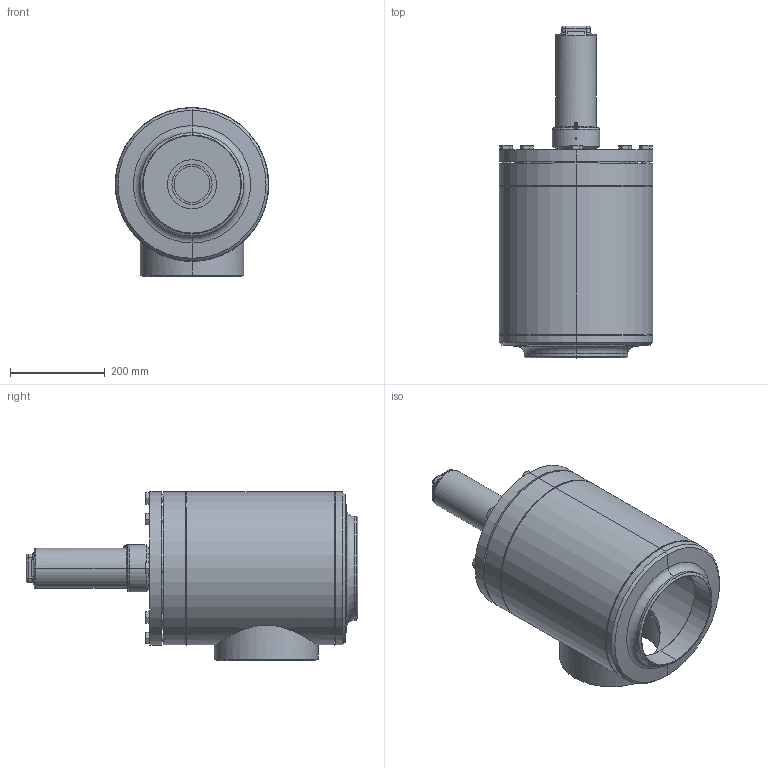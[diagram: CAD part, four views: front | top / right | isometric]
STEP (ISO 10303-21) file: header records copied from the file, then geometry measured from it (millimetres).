
FILE_DESCRIPTION (( 'STEP AP214' ), '1' );
FILE_NAME ('RVA29400C23A%A3AA00_DN200_R1_PS25.STEP', '2010-06-16T11:04:52', ( 'Eckhard Grams' ), ( 'AWP Kälte Klima Armaturen GmbH' ), 'SwSTEP 2.0', 'SolidWorks 2002296', '' );
FILE_SCHEMA (( 'AUTOMOTIVE_DESIGN' ));
Length unit declared in the file: millimetre
Products named in the file (15): RVA29400C23A%A3AA00_DN200_R1_PS25; RVA29300B23_Deck+Schr-DN200_Standard; Deckel,kpl29300B2-DN200_Standard; Buchse f Deckel29300-DN200_Standard; bead-deck263-200_Standard; Scheibe f Deckel16300-DN200_Standard; Sechskantschraube-DIN933_M16x 45; Kappe 16402-23_DN200-350 (M80x3)_Standard; Geh,kpl 16300B23-5030AA1_DN200_R1_Standard; Kopfstück16300-DN200_Standard; Gehäuse16300-DN200_Standard; Boden16300a-23_R1_Standard; Rohrstutzen-A16300a-23_R1_Standard; bead Geh,kpl 16300a-23-2_Standard; bead Geh,kpl 16300a-23-1_Standard
Assembly tree (21 placements, depth 4):
  RVA29400C23A%A3AA00_DN200_R1_PS25
    RVA29300B23_Deck+Schr-DN200_Standard
      Sechskantschraube-DIN933_M16x 45  x8
      Deckel,kpl29300B2-DN200_Standard
        Buchse f Deckel29300-DN200_Standard
        bead-deck263-200_Standard
        Scheibe f Deckel16300-DN200_Standard
    Geh,kpl 16300B23-5030AA1_DN200_R1_Standard
      Rohrstutzen-A16300a-23_R1_Standard
      Kopfstück16300-DN200_Standard
      bead Geh,kpl 16300a-23-1_Standard
      Boden16300a-23_R1_Standard
      Gehäuse16300-DN200_Standard
      bead Geh,kpl 16300a-23-2_Standard
    Kappe 16402-23_DN200-350 (M80x3)_Standard
Bounding box: 325 x 702 x 357.5 mm (x, y, z)
Volume: 11294078.5 mm3; surface area: 1623679.2 mm2
Topology: 18 solids, 18 shells, 420 faces, 905 edges, 541 vertices
Faces by surface type: cone 136, plane 119, cylinder 118, bspline 31, torus 16
Entity records: 22797 total; most frequent: CARTESIAN_POINT 16514, DIRECTION 1187, ORIENTED_EDGE 1082, EDGE_CURVE 541, AXIS2_PLACEMENT_3D 515, VERTEX_POINT 331, EDGE_LOOP 296, CIRCLE 274
